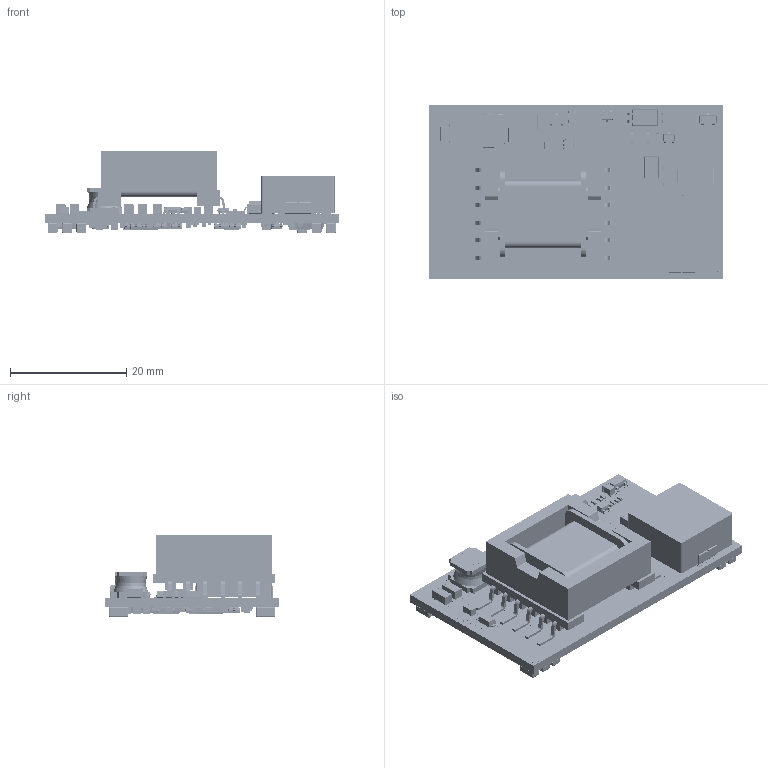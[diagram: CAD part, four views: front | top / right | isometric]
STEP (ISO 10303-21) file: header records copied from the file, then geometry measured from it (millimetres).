
FILE_DESCRIPTION(('FreeCAD Model'),'2;1');
FILE_NAME('Open CASCADE Shape Model','2025-05-30T16:41:53',(''),(''), 'Open CASCADE STEP processor 7.6','FreeCAD','Unknown');
FILE_SCHEMA(('AUTOMOTIVE_DESIGN { 1 0 10303 214 1 1 1 1 }'));
Products named in the file (1): Ag59800_Detailed
Bounding box: 50.62 x 30 x 14.11 mm (x, y, z)
Surface area: 18616.5 mm2 (no closed solid volume)
Topology: 0 solids, 14672 shells, 14672 faces, 73588 edges, 73580 vertices
Faces by surface type: extrusion 9157, revolution 4621, bspline 894
Entity records: 925268 total; most frequent: CARTESIAN_POINT 178518, DIRECTION 116659, VECTOR 75228, ORIENTED_EDGE 73580, EDGE_CURVE 73580, VERTEX_POINT 73580, LINE 66071, AXIS2_PLACEMENT_3D 18405
